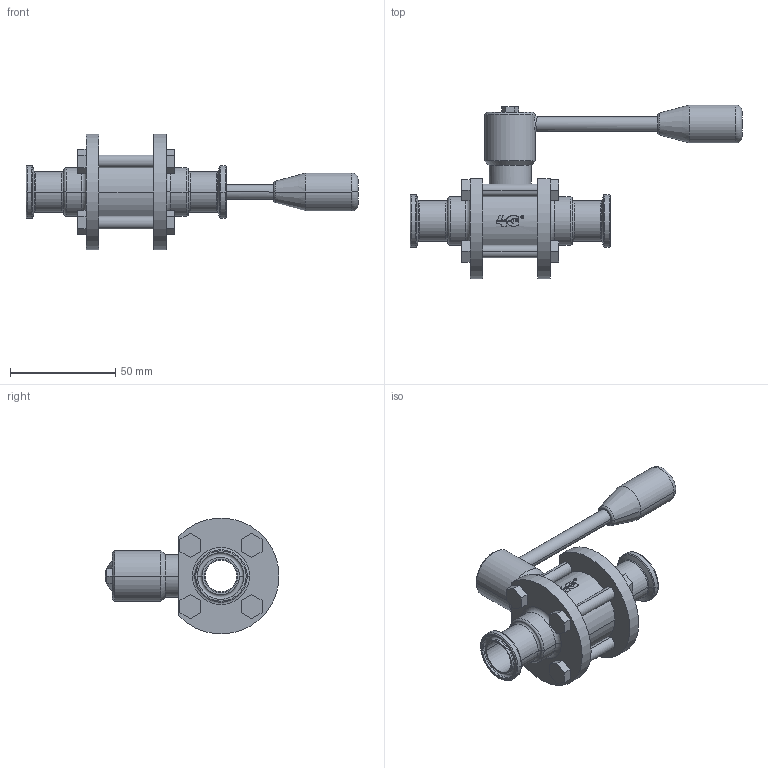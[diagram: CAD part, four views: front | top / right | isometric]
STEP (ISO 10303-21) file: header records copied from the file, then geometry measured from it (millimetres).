
FILE_DESCRIPTION((''),'2;1');
FILE_NAME('54013061810','2020-10-20T15:37:18',('alfio.taboni'),('CDM Tecnoconsulting'),'CREO PARAMETRIC BY PTC INC, 2020053','CREO PARAMETRIC BY PTC INC, 2020053','');
FILE_SCHEMA(('CONFIG_CONTROL_DESIGN','SHAPE_APPEARANCE_LAYERS_GROUPS'));
Length unit declared in the file: millimetre
Products named in the file (1): 54013061810
Bounding box: 157.5 x 82.5 x 54.96 mm (x, y, z)
Volume: 84400.9 mm3; surface area: 29664.9 mm2
Topology: 1 solids, 1 shells, 295 faces, 720 edges, 459 vertices
Faces by surface type: plane 148, extrusion 55, cylinder 48, torus 32, cone 10, bspline 2
Entity records: 11756 total; most frequent: CARTESIAN_POINT 2756, ORIENTED_EDGE 1440, DIRECTION 1256, PRESENTATION_STYLE_ASSIGNMENT 721, STYLED_ITEM 721, CURVE_STYLE 720, EDGE_CURVE 720, VECTOR 464
